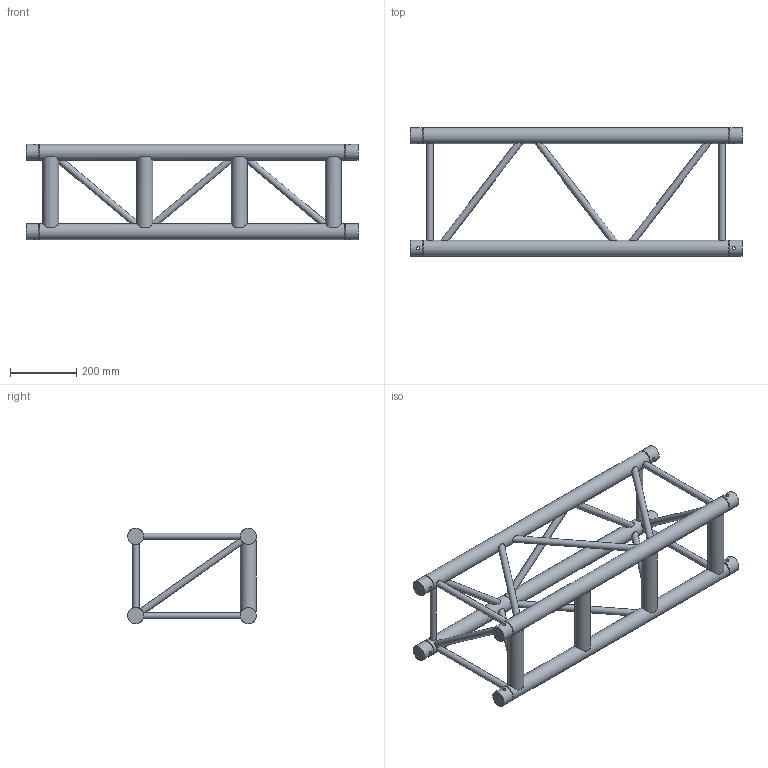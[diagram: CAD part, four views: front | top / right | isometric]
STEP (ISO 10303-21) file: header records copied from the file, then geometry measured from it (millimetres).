
FILE_DESCRIPTION(/* description */ (''),/* implementation_level */ '2;1');
FILE_NAME(/* name */ 'C:\Users\adrian.toca\Desktop\111050492.stp',/* time_stamp */ '2016-09-16T10:14:08+03:00',/* author */ ('adrian.toca'),/* organization */ (''),/* preprocessor_version */ 'ST-DEVELOPER v15.6',/* originating_system */ 'Autodesk Inventor 2015',/* authorisation */ '');
FILE_SCHEMA (('AUTOMOTIVE_DESIGN { 1 0 10303 214 3 1 1 }'));
Length unit declared in the file: millimetre
Products named in the file (1): 260030875
Bounding box: 1000 x 387.3 x 287.3 mm (x, y, z)
Volume: 10432256.4 mm3; surface area: 1091775 mm2
Topology: 11 solids, 11 shells, 128 faces, 304 edges, 195 vertices
Faces by surface type: plane 64, cylinder 56, cone 8
Full cylindrical faces by diameter (mm): 10 x8, 20 x17, 48.3 x16
Entity records: 4536 total; most frequent: CARTESIAN_POINT 1854, DIRECTION 498, ORIENTED_EDGE 448, AXIS2_PLACEMENT_3D 230, EDGE_LOOP 226, EDGE_CURVE 210, VERTEX_POINT 166, STYLED_ITEM 114
